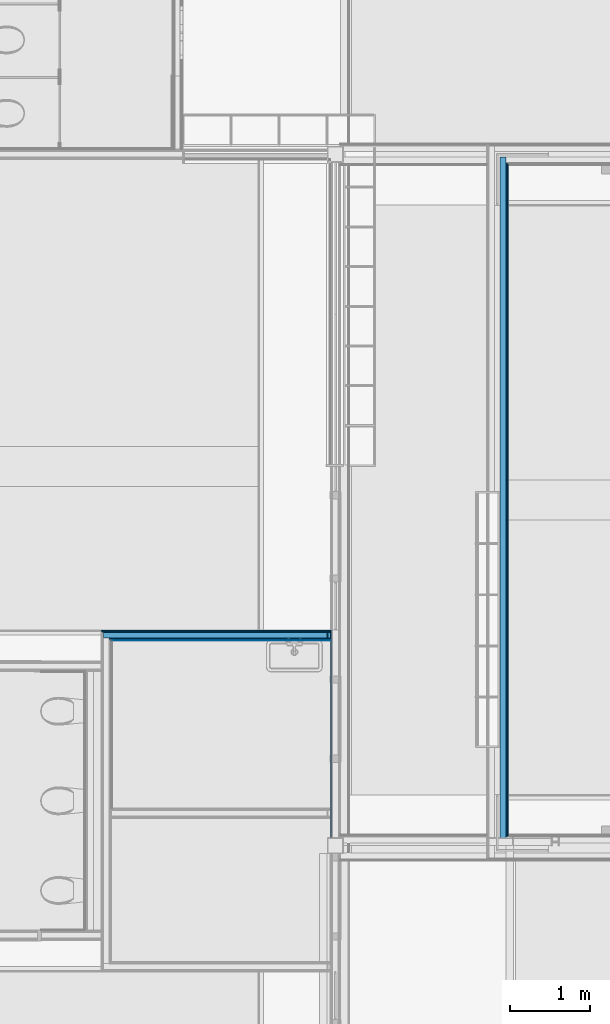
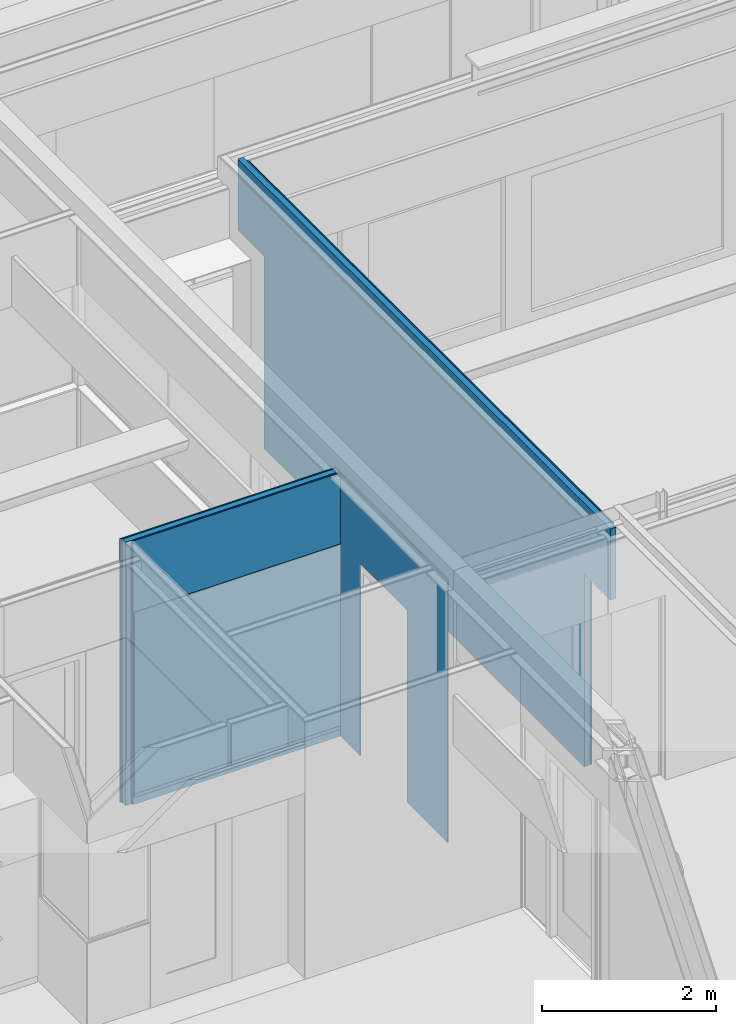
# One storey, part 57 of 165: 11 building element parts, 3 openings, 4 elements without a shape of their own.
"""IFC2X3 building model written with IfcOpenShell, lengths in millimetres."""

from ifc_helpers import new_model, entity, si_unit, converted_unit, derived_unit, money_unit, direction, frame, origin_with_axes, place, context, subcontext, project, spatial, faceted_brep, material, type_object, element, aggregate, save


model = new_model("IFC2X3")

# Units and contexts
model_context = context("Model", 3, precision=0.01, world=origin_with_axes(), true_north=direction((0.0, 1.0)))
body_context = subcontext(model_context, "Body", "Model", "MODEL_VIEW")
ifc_project = project(units=[si_unit("LENGTHUNIT", "METRE", prefix="MILLI"), si_unit("AREAUNIT", "SQUARE_METRE"), si_unit("VOLUMEUNIT", "CUBIC_METRE"), converted_unit("PLANEANGLEUNIT", "DEGREE", entity("IfcPlaneAngleMeasure", 0.0174532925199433), si_unit("PLANEANGLEUNIT", "RADIAN"), dimensions=[0, 0, 0, 0, 0, 0, 0]), money_unit("EUR"), converted_unit("TIMEUNIT", "Year", entity("IfcTimeMeasure", 31556926.0), si_unit("TIMEUNIT", "SECOND"), dimensions=[0, 0, 1, 0, 0, 0, 0]), si_unit("MASSUNIT", "GRAM", prefix="KILO"), si_unit("THERMODYNAMICTEMPERATUREUNIT", "DEGREE_CELSIUS"), si_unit("LUMINOUSINTENSITYUNIT", "LUMEN"), si_unit("ENERGYUNIT", "JOULE", prefix="MEGA"), derived_unit("THERMALCONDUCTANCEUNIT", [(si_unit("POWERUNIT", "WATT"), 1), (si_unit("LENGTHUNIT", "METRE"), -1), (si_unit("THERMODYNAMICTEMPERATUREUNIT", "KELVIN"), -1)]), derived_unit("SPECIFICHEATCAPACITYUNIT", [(si_unit("ENERGYUNIT", "JOULE"), 1), (si_unit("MASSUNIT", "GRAM", prefix="KILO"), -1), (si_unit("THERMODYNAMICTEMPERATUREUNIT", "KELVIN"), -1)]), derived_unit("MASSDENSITYUNIT", [(si_unit("MASSUNIT", "GRAM", prefix="KILO"), 1), (si_unit("VOLUMEUNIT", "CUBIC_METRE"), -1)])], contexts=[model_context])

# Site, building, storey
site_placement = place(None, origin_with_axes())
site = spatial("IfcSite", under=ifc_project, at=site_placement, Name="Site", CompositionType="ELEMENT")
building_placement = place(site_placement, origin_with_axes())
building = spatial("IfcBuilding", under=site, at=building_placement, Name="Naam gebouw", CompositionType="ELEMENT")
storey_placement = place(building_placement, origin_with_axes())
storey = spatial("IfcBuildingStorey", under=building, at=storey_placement, Name="Begane grond", CompositionType="ELEMENT", Elevation=0.0)

# Proxy, building element parts
building_element_proxy_type_1 = type_object("IfcBuildingElementProxyType", Name="22 Metal stud 125 gips 125", PredefinedType="NOTDEFINED")
proxy_1_placement = place(storey_placement, frame((8850.000000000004, 13505.00003229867, -100.0), z_axis=(0.0, 0.0, 1.0), x_axis=(-0.9999999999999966, 8.284042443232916e-08, 0.0)))
proxy_1 = element("IfcBuildingElementProxy", 1, at=proxy_1_placement, inside=storey, type_object=building_element_proxy_type_1, Name="_Wand-x")
ifc_material_1 = material(Name="Gipsplaat")
building_element_part_1_placement = place(proxy_1_placement, origin_with_axes())
building_element_part_1 = element("IfcBuildingElementPart", 2, at=building_element_part_1_placement, material=ifc_material_1, Name="Gipsplaat", context=body_context, shape_type="Brep", body=[
    faceted_brep([(199.9999906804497, 112.5000165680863, 3695.000002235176), (199.9999906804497, 112.5000165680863, 3670.000002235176), (62.4999906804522, 112.5000051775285, 3670.000002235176), (62.4999906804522, 112.5000051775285, 0.0), (2812.50039282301, 112.5002329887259, 0.0), (2812.50039282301, 112.5002329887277, 3700.0), (102.9999906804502, 112.5000085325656, 3700.0), (102.9999906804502, 112.5000085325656, 3695.000002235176), (199.9999896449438, 125.0000165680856, 3695.000002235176), (199.9999896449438, 125.0000165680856, 3670.000002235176), (62.4999896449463, 125.0000051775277, 3670.000002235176), (62.4999896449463, 125.0000051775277, 0.0), (2812.500391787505, 125.000232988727, 0.0), (2812.500391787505, 125.000232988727, 3700.0), (102.9999896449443, 125.0000085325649, 3700.0), (102.9999896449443, 125.0000085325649, 3695.000002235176)], [[[0, 1, 2, 3, 4, 5, 6, 7]], [[1, 0, 8, 9]], [[10, 2, 1, 9]], [[2, 10, 11, 3]], [[4, 3, 11, 12]], [[12, 13, 5, 4]], [[14, 6, 5, 13]], [[7, 6, 14, 15]], [[0, 7, 15, 8]], [[15, 14, 13, 12, 11, 10, 9, 8]]]),
    faceted_brep([(62.4999896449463, 125.0000051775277, 3695.000002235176), (62.4999906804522, 112.5000051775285, 3695.000002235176), (62.4999906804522, 112.5000051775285, 3700.0), (62.4999896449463, 125.0000051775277, 3700.0), (94.99999068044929, 112.5000078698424, 3695.000002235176), (94.99998964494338, 125.0000078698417, 3695.000002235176), (94.99999068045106, 112.5000078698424, 3700.0), (94.99998964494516, 125.0000078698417, 3700.0)], [[[0, 1, 2, 3]], [[4, 1, 0, 5]], [[4, 6, 2, 1]], [[6, 7, 3, 2]], [[5, 0, 3, 7]], [[7, 6, 4, 5]]]),
])
ifc_material_2 = material(Name="ALG - LICHTE SCHEIDINGSWAND")
building_element_part_2_placement = place(proxy_1_placement, origin_with_axes())
building_element_part_2 = element("IfcBuildingElementPart", 3, at=building_element_part_2_placement, material=ifc_material_2, Name="ALG - LICHTE SCHEIDINGSWAND", context=body_context, shape_type="Brep", body=[
    faceted_brep([(199.9999979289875, 25.00001656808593, 3695.000002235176), (199.9999979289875, 25.00001656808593, 3670.000002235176), (62.49999792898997, 25.0000051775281, 3670.000002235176), (62.49999792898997, 25.0000051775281, 0.0), (2900.000400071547, 25.0002402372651, 0.0), (2900.000400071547, 25.0002402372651, 3700.0), (102.999997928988, 25.00000853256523, 3700.0), (102.999997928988, 25.00000853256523, 3695.000002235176), (199.9999917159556, 100.0000165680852, 3695.000002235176), (199.9999917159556, 100.0000165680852, 3670.000002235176), (62.4999917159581, 100.0000051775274, 3670.000002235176), (62.4999917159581, 100.0000051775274, 0.0), (2900.000393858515, 100.0002402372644, 0.0), (2900.000393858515, 100.0002402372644, 3700.0), (102.9999917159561, 100.0000085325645, 3700.0), (102.9999917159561, 100.0000085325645, 3695.000002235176)], [[[0, 1, 2, 3, 4, 5, 6, 7]], [[1, 0, 8, 9]], [[10, 2, 1, 9]], [[2, 10, 11, 3]], [[4, 3, 11, 12]], [[12, 13, 5, 4]], [[14, 6, 5, 13]], [[7, 6, 14, 15]], [[0, 7, 15, 8]], [[15, 14, 13, 12, 11, 10, 9, 8]]]),
    faceted_brep([(62.4999917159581, 100.0000051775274, 3695.000002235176), (62.49999792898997, 25.0000051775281, 3695.000002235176), (62.49999792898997, 25.0000051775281, 3700.0), (62.4999917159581, 100.0000051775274, 3700.0), (94.99999792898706, 25.00000786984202, 3695.000002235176), (94.99999171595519, 100.0000078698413, 3695.000002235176), (94.99999792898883, 25.00000786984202, 3700.0), (94.99999171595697, 100.0000078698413, 3700.0)], [[[0, 1, 2, 3]], [[4, 1, 0, 5]], [[4, 6, 2, 1]], [[6, 7, 3, 2]], [[5, 0, 3, 7]], [[7, 6, 4, 5]]]),
])
building_element_part_3_placement = place(proxy_1_placement, origin_with_axes())
building_element_part_3 = element("IfcBuildingElementPart", 4, at=building_element_part_3_placement, material=ifc_material_1, Name="Gipsplaat", context=body_context, shape_type="Brep", body=[
    faceted_brep([(199.9999989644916, 12.50001656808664, 3695.000002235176), (199.9999989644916, 12.50001656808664, 3670.000002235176), (62.4999989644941, 12.50000517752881, 3670.000002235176), (62.4999989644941, 12.50000517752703, 0.0), (2912.500401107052, 12.50024127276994, 0.0), (2912.500401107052, 12.50024127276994, 3700.0), (102.9999989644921, 12.50000853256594, 3700.0), (102.9999989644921, 12.50000853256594, 3695.000002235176), (199.9999979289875, 25.00001656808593, 3695.000002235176), (199.9999979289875, 25.00001656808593, 3670.000002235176), (62.49999792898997, 25.0000051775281, 3670.000002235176), (62.49999792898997, 25.0000051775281, 0.0), (2912.500400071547, 25.00024127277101, 0.0), (2912.500400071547, 25.00024127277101, 3700.0), (102.999997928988, 25.00000853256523, 3700.0), (102.999997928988, 25.00000853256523, 3695.000002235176)], [[[0, 1, 2, 3, 4, 5, 6, 7]], [[1, 0, 8, 9]], [[10, 2, 1, 9]], [[2, 10, 11, 3]], [[4, 3, 11, 12]], [[12, 13, 5, 4]], [[14, 6, 5, 13]], [[7, 6, 14, 15]], [[0, 7, 15, 8]], [[15, 14, 13, 12, 11, 10, 9, 8]]]),
    faceted_brep([(62.49999792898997, 25.0000051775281, 3695.000002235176), (62.4999989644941, 12.50000517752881, 3695.000002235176), (62.4999989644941, 12.50000517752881, 3700.0), (62.49999792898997, 25.0000051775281, 3700.0), (94.99999896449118, 12.50000786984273, 3695.000002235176), (94.99999792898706, 25.00000786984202, 3695.000002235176), (94.99999896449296, 12.50000786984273, 3700.0), (94.99999792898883, 25.00000786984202, 3700.0)], [[[0, 1, 2, 3]], [[4, 1, 0, 5]], [[4, 6, 2, 1]], [[6, 7, 3, 2]], [[5, 0, 3, 7]], [[7, 6, 4, 5]]]),
])
building_element_part_4_placement = place(proxy_1_placement, origin_with_axes())
building_element_part_4 = element("IfcBuildingElementPart", 5, at=building_element_part_4_placement, material=ifc_material_1, Name="Gipsplaat", context=body_context, shape_type="Brep", body=[
    faceted_brep([(199.9999999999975, 1.656808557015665e-05, 3695.000002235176), (199.9999999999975, 1.656808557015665e-05, 3670.000002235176), (62.5, 5.177527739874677e-06, 3670.000002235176), (62.5, 5.177527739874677e-06, 0.0), (2925.000402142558, 0.0002423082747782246, 0.0), (2925.000402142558, 0.0002423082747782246, 3700.0), (102.999999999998, 8.532564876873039e-06, 3700.0), (102.999999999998, 8.532564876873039e-06, 3695.000002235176), (199.9999989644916, 12.50001656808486, 3695.000002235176), (199.9999989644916, 12.50001656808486, 3670.000002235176), (62.4999989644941, 12.50000517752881, 3670.000002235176), (62.4999989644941, 12.50000517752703, 0.0), (2925.000401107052, 12.50024230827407, 0.0), (2925.000401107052, 12.50024230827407, 3700.0), (102.9999989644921, 12.50000853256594, 3700.0), (102.9999989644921, 12.50000853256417, 3695.000002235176)], [[[0, 1, 2, 3, 4, 5, 6, 7]], [[1, 0, 8, 9]], [[10, 2, 1, 9]], [[2, 10, 11, 3]], [[4, 3, 11, 12]], [[12, 13, 5, 4]], [[14, 6, 5, 13]], [[7, 6, 14, 15]], [[0, 7, 15, 8]], [[15, 14, 13, 12, 11, 10, 9, 8]]]),
    faceted_brep([(62.4999989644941, 12.50000517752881, 3695.000002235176), (62.5, 5.177527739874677e-06, 3695.000002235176), (62.5, 5.177527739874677e-06, 3700.0), (62.4999989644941, 12.50000517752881, 3700.0), (94.99999999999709, 7.869841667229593e-06, 3695.000002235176), (94.99999896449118, 12.50000786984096, 3695.000002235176), (94.99999999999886, 7.869841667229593e-06, 3700.0), (94.99999896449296, 12.50000786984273, 3700.0)], [[[0, 1, 2, 3]], [[4, 1, 0, 5]], [[4, 6, 2, 1]], [[6, 7, 3, 2]], [[5, 0, 3, 7]], [[7, 6, 4, 5]]]),
])
building_element_part_5_placement = place(proxy_1_placement, origin_with_axes())
building_element_part_5 = element("IfcBuildingElementPart", 6, at=building_element_part_5_placement, material=ifc_material_1, Name="Gipsplaat", context=body_context, shape_type="Brep", body=[
    faceted_brep([(199.9999917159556, 100.0000165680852, 3695.000002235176), (199.9999917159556, 100.0000165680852, 3670.000002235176), (62.4999917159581, 100.0000051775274, 3670.000002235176), (62.4999917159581, 100.0000051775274, 0.0), (2825.000393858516, 100.0002340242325, 0.0), (2825.000393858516, 100.0002340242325, 3700.0), (102.9999917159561, 100.0000085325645, 3700.0), (102.9999917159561, 100.0000085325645, 3695.000002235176), (199.9999906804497, 112.5000165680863, 3695.000002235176), (199.9999906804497, 112.5000165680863, 3670.000002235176), (62.4999906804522, 112.5000051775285, 3670.000002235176), (62.4999906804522, 112.5000051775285, 0.0), (2825.00039282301, 112.5002340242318, 0.0), (2825.00039282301, 112.5002340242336, 3700.0), (102.9999906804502, 112.5000085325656, 3700.0), (102.9999906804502, 112.5000085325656, 3695.000002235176)], [[[0, 1, 2, 3, 4, 5, 6, 7]], [[1, 0, 8, 9]], [[10, 2, 1, 9]], [[2, 10, 11, 3]], [[4, 3, 11, 12]], [[12, 13, 5, 4]], [[14, 6, 5, 13]], [[7, 6, 14, 15]], [[0, 7, 15, 8]], [[15, 14, 13, 12, 11, 10, 9, 8]]]),
    faceted_brep([(62.4999906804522, 112.5000051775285, 3695.000002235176), (62.4999917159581, 100.0000051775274, 3695.000002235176), (62.4999917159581, 100.0000051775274, 3700.0), (62.4999906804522, 112.5000051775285, 3700.0), (94.99999171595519, 100.0000078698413, 3695.000002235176), (94.99999068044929, 112.5000078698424, 3695.000002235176), (94.99999171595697, 100.0000078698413, 3700.0), (94.99999068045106, 112.5000078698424, 3700.0)], [[[0, 1, 2, 3]], [[4, 1, 0, 5]], [[4, 6, 2, 1]], [[6, 7, 3, 2]], [[5, 0, 3, 7]], [[7, 6, 4, 5]]]),
])
aggregate(proxy_1, [building_element_part_1, building_element_part_2, building_element_part_3, building_element_part_4, building_element_part_5])

# Proxy, openings, building element parts
building_element_proxy_type_2 = type_object("IfcBuildingElementProxyType", Name="22 Metal stud 270 oregon pine 270", PredefinedType="NOTDEFINED")
proxy_2_placement = place(storey_placement, frame((10875.00000000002, 19450.00039292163, -100.0), z_axis=(0.0, 0.0, 1.0), x_axis=(0.0, -1.0, 0.0)))
proxy_2 = element("IfcBuildingElementProxy", 7, at=proxy_2_placement, inside=storey, type_object=building_element_proxy_type_2, Name="_Wand-x")
opening_1_placement = place(proxy_2_placement, frame((8345.001576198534, 0.0, 100.0), z_axis=(0.0, 0.0, 1.0), x_axis=(1.0, 0.0, 0.0)))
element("IfcOpeningElement", 8, at=opening_1_placement, cuts=proxy_2, Name="_B.07", context=body_context, shape_type="Brep", body=[
    faceted_brep([(484.9999999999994, -134.999999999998, 2600.0), (484.9999999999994, -135.9999999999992, 2600.0), (484.9999999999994, -135.9999999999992, -100.0000000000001), (484.9999999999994, -134.999999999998, -100.0000000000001), (-339.9999999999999, -10.00000000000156, 2600.0), (-339.9999999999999, -135.9999999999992, 2600.0), (158.7962962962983, 135.9999999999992, 2600.0), (-339.9999999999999, 135.9999999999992, 2600.0), (-339.9999999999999, -135.9999999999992, -100.0000000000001), (-339.9999999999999, -10.00000000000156, -100.0000000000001), (-339.9999999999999, 135.9999999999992, -100.0000000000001), (158.7962962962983, 135.9999999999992, -100.0000000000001)], [[[0, 1, 2, 3]], [[4, 5, 1, 0, 6, 7]], [[5, 8, 2, 1]], [[3, 2, 8, 9, 10, 11]], [[0, 3, 11, 6]], [[4, 9, 8, 5]], [[11, 10, 7, 6]], [[9, 4, 7, 10]]]),
])
opening_2_placement = place(proxy_2_placement, frame((322.499999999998, 0.0, 100.0), z_axis=(0.0, 0.0, 1.0), x_axis=(1.0, 0.0, 0.0)))
element("IfcOpeningElement", 9, at=opening_2_placement, cuts=proxy_2, Name="_B.11", context=body_context, shape_type="Brep", body=[
    faceted_brep([(312.5, -9.999999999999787, -100.0000000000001), (312.5, -9.999999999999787, 2600.0), (312.5, -135.9999999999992, 2600.0), (312.5, -135.9999999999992, -100.0000000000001), (312.5, 135.9999999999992, -100.0000000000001), (312.5, 135.9999999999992, 2600.0), (-457.4999999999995, -135.0000000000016, 2600.0), (-457.4999999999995, -135.9999999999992, 2600.0), (-186.4999999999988, 135.9999999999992, 2600.0), (-457.4999999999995, -135.9999999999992, -100.0000000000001), (-457.4999999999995, -135.0000000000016, -100.0000000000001), (-186.4999999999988, 135.9999999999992, -100.0000000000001)], [[[0, 1, 2, 3]], [[1, 0, 4, 5]], [[6, 7, 2, 1, 5, 8]], [[7, 9, 3, 2]], [[0, 3, 9, 10, 11, 4]], [[5, 4, 11, 8]], [[10, 9, 7, 6]], [[8, 11, 10, 6]]]),
])
building_element_part_6_placement = place(proxy_2_placement, origin_with_axes())
building_element_part_6 = element("IfcBuildingElementPart", 10, at=building_element_part_6_placement, material=ifc_material_1, Name="Gipsplaat", context=body_context, shape_type="Brep", body=[
    faceted_brep([(634.999999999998, 135.0000193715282, 0.0), (634.999999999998, 135.0000193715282, 2700.0), (135.0000193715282, 135.0000193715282, 2700.0), (122.4999999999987, 134.9999999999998, 2700.0), (122.4999999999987, 134.9999999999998, 3700.0), (8517.501576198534, 134.9999999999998, 3700.0), (8517.501576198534, 134.9999999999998, 2700.0), (8505.001552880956, 135.0000193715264, 2700.0), (8005.001576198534, 135.0000193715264, 2700.0), (8005.001576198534, 135.0000193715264, 0.0), (634.999999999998, 122.4999999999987, 0.0), (634.999999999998, 122.5000000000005, 2700.0), (122.4999999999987, 122.5000000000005, 2700.0), (122.4999999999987, 122.5000000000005, 3700.0), (8517.501576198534, 122.4999999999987, 3700.0), (8517.501576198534, 122.4999999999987, 2700.0), (8005.001576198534, 122.4999999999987, 2700.0), (8005.001576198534, 122.4999999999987, 0.0)], [[[0, 1, 2, 3, 4, 5, 6, 7, 8, 9]], [[1, 0, 10, 11]], [[2, 1, 11, 12, 3]], [[3, 12, 13, 4]], [[14, 5, 4, 13]], [[15, 6, 5, 14]], [[15, 16, 8, 7, 6]], [[9, 8, 16, 17]], [[10, 0, 9, 17]], [[11, 10, 17, 16, 15, 14, 13, 12]]]),
])
building_element_part_7_placement = place(proxy_2_placement, origin_with_axes())
building_element_part_7 = element("IfcBuildingElementPart", 11, at=building_element_part_7_placement, material=ifc_material_2, Name="ALG - LICHTE SCHEIDINGSWAND", context=body_context, shape_type="Brep", body=[
    faceted_brep([(634.999999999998, 109.9999999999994, 0.0), (634.999999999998, 110.0000000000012, 2700.0), (35.00000000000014, 109.9999999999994, 2700.0), (35.00000000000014, 109.9999999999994, 3700.0), (8605.001576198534, 109.9999999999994, 3700.0), (8605.001576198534, 109.9999999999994, 2700.0), (8005.001576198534, 109.9999999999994, 2700.0), (8005.001576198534, 109.9999999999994, 0.0), (634.999999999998, 34.99998360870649, 0.0), (634.999999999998, 35.00000000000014, 2700.0), (35.00000000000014, 35.00000000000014, 2700.0), (35.00000000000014, 35.00000000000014, 3700.0), (8605.001576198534, 34.99999999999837, 3700.0), (8605.001576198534, 34.99999999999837, 2700.0), (8005.001576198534, 34.99999999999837, 2700.0), (8005.001576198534, 34.99998360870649, 0.0)], [[[0, 1, 2, 3, 4, 5, 6, 7]], [[1, 0, 8, 9]], [[2, 1, 9, 10]], [[2, 10, 11, 3]], [[12, 4, 3, 11]], [[13, 5, 4, 12]], [[13, 14, 6, 5]], [[7, 6, 14, 15]], [[8, 0, 7, 15]], [[9, 8, 15, 14, 13, 12, 11, 10]]]),
])
building_element_part_8_placement = place(proxy_2_placement, origin_with_axes())
building_element_part_8 = element("IfcBuildingElementPart", 12, at=building_element_part_8_placement, material=ifc_material_1, Name="Gipsplaat", context=body_context, shape_type="Brep", body=[
    faceted_brep([(634.999999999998, 122.5000000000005, 0.0), (634.999999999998, 122.5000000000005, 2700.0), (109.9999999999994, 122.5000000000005, 2700.0), (109.9999999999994, 122.5000000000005, 3700.0), (8530.001576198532, 122.4999999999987, 3700.0), (8530.001576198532, 122.4999999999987, 2700.0), (8005.001576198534, 122.4999999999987, 2700.0), (8005.001576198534, 122.4999999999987, 0.0), (634.999999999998, 109.9999999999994, 0.0), (634.999999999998, 110.0000000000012, 2700.0), (109.9999999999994, 109.9999999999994, 2700.0), (109.9999999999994, 109.9999999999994, 3700.0), (8530.001576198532, 109.9999999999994, 3700.0), (8530.001576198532, 109.9999999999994, 2700.0), (8005.001576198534, 109.9999999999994, 2700.0), (8005.001576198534, 109.9999999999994, 0.0)], [[[0, 1, 2, 3, 4, 5, 6, 7]], [[1, 0, 8, 9]], [[2, 1, 9, 10]], [[2, 10, 11, 3]], [[12, 4, 3, 11]], [[13, 5, 4, 12]], [[13, 14, 6, 5]], [[7, 6, 14, 15]], [[8, 0, 7, 15]], [[9, 8, 15, 14, 13, 12, 11, 10]]]),
])
aggregate(proxy_2, [building_element_part_6, building_element_part_7, building_element_part_8])

# Proxy, opening, building element part
building_element_proxy_type_3 = type_object("IfcBuildingElementProxyType", Name="22 Metal stud 125 oregon pine 125", PredefinedType="NOTDEFINED")
proxy_3_placement = place(storey_placement, frame((8850.000000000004, 13505.00003229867, -100.0), z_axis=(0.0, 0.0, 1.0), x_axis=(0.0, -1.0, 0.0)))
proxy_3 = element("IfcBuildingElementProxy", 13, at=proxy_3_placement, inside=storey, type_object=building_element_proxy_type_3, Name="_Wand-x")
opening_3_placement = place(proxy_3_placement, frame((1114.999994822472, 0.0, 100.0), z_axis=(0.0, 0.0, 1.0), x_axis=(1.0, 0.0, 0.0)))
element("IfcOpeningElement", 14, at=opening_3_placement, cuts=proxy_3, Name="_01.02", context=body_context, shape_type="Brep", body=[
    faceted_brep([(-539.9999999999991, -63.49999999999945, 2600.0), (-539.9999999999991, -63.49999999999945, -100.0000000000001), (539.9999999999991, -63.49999999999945, -100.0000000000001), (539.9999999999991, -63.49999999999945, 2600.0), (-539.9999999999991, 63.50000000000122, 2600.0), (-539.9999999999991, 63.50000000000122, -100.0000000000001), (539.9999999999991, 63.50000000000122, -100.0000000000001), (539.9999999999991, 63.50000000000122, 2600.0)], [[[0, 1, 2, 3]], [[4, 5, 1, 0]], [[5, 6, 2, 1]], [[6, 7, 3, 2]], [[7, 4, 0, 3]], [[6, 5, 4, 7]]]),
])
building_element_part_9_placement = place(proxy_3_placement, origin_with_axes())
building_element_part_9 = element("IfcBuildingElementPart", 15, at=building_element_part_9_placement, material=ifc_material_1, Name="Gipsplaat", context=body_context, shape_type="Brep", body=[
    faceted_brep([(1654.999994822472, -50.00000000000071, 0.0), (1654.999994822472, -50.00000000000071, 2700.0), (574.9999948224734, -50.00000000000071, 2700.0), (574.9999948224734, -50.00000000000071, 0.0), (0.0, -50.00000000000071, 0.0), (0.0, -49.99999999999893, 3670.000002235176), (2594.999921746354, -50.00000000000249, 3670.000002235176), (2594.999921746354, -50.00000000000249, 0.0), (1654.999994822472, -62.5, 0.0), (1654.999994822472, -62.5, 2700.0), (574.9999948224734, -62.5, 2700.0), (574.9999948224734, -62.5, 0.0), (0.0, -62.5, 0.0), (0.0, -62.5, 3670.000002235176), (2594.999921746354, -62.50000000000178, 3670.000002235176), (2594.999921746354, -62.50000000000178, 0.0)], [[[0, 1, 2, 3, 4, 5, 6, 7]], [[1, 0, 8, 9]], [[2, 1, 9, 10]], [[3, 2, 10, 11]], [[3, 11, 12, 4]], [[13, 5, 4, 12]], [[6, 5, 13, 14]], [[6, 14, 15, 7]], [[8, 0, 7, 15]], [[9, 8, 15, 14, 13, 12, 11, 10]]]),
    faceted_brep([(2594.999921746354, -50.00000000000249, 3700.0), (2594.999921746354, -50.00000000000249, 3695.000002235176), (0.0, -49.99999999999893, 3695.000002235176), (0.0, -49.99999999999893, 3700.0), (2594.999921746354, -62.50000000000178, 3700.0), (2594.999921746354, -62.50000000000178, 3695.000002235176), (0.0, -62.5, 3695.000002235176), (0.0, -62.5, 3700.0)], [[[0, 1, 2, 3]], [[4, 5, 1, 0]], [[5, 6, 2, 1]], [[3, 2, 6, 7]], [[4, 0, 3, 7]], [[7, 6, 5, 4]]]),
])
aggregate(proxy_3, [building_element_part_9])

# Proxy, building element parts
building_element_proxy_type_4 = type_object("IfcBuildingElementProxyType", Name="42 Tegelwerk 2600+ 12 x 2600", PredefinedType="NOTDEFINED")
proxy_4_placement = place(storey_placement, frame((8787.500000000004, 13360.00004210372, 0.0), z_axis=(0.0, 0.0, 1.0), x_axis=(-0.9999999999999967, 8.261900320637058e-08, 0.0)))
proxy_4 = element("IfcBuildingElementProxy", 16, at=proxy_4_placement, inside=storey, type_object=building_element_proxy_type_4, Name="_Wand-x")
ifc_material_3 = material(Name="48 vloeivloer Bolidt")
building_element_part_10_placement = place(proxy_4_placement, origin_with_axes())
building_element_part_10 = element("IfcBuildingElementPart", 17, at=building_element_part_10_placement, material=ifc_material_3, Name="48 vloeivloer Bolidt", context=body_context, shape_type="Brep", body=[
    faceted_brep([(2737.500413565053, -19.99975743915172, 0.0), (2737.500413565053, -19.99975743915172, 50.00000596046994), (1.652379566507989e-06, -19.99998360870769, 50.00000596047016), (1.652379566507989e-06, -19.99998360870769, 0.0), (2737.500413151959, -14.99977234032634, 0.0), (2737.500413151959, -14.99977234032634, 50.00000596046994), (1.239284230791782e-06, -14.99999850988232, 50.00000596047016), (1.239284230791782e-06, -14.99999850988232, 0.0)], [[[0, 1, 2, 3]], [[1, 0, 4, 5]], [[1, 5, 6, 2]], [[6, 7, 3, 2]], [[4, 0, 3, 7]], [[5, 4, 7, 6]]]),
])
ifc_material_4 = material(Name="21 STO lijmlaag")
building_element_part_11_placement = place(proxy_4_placement, origin_with_axes())
building_element_part_11 = element("IfcBuildingElementPart", 18, at=building_element_part_11_placement, material=ifc_material_4, Name="21 STO lijmlaag", context=body_context, shape_type="Brep", body=[
    faceted_brep([(2737.500413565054, -19.9997693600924, 50.00000596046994), (2737.500413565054, -19.99976936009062, 2600.0), (1.652379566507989e-06, -19.9999955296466, 2600.0), (1.652379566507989e-06, -19.9999955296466, 50.00000000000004), (2737.500412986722, -12.9997783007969, 2600.0), (2737.500413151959, -14.99977234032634, 50.00000596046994), (2737.500412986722, -12.9997783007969, 50.00000596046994), (1.07404751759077e-06, -13.00000447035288, 2600.0), (1.07404751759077e-06, -13.00000447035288, 50.00000000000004), (1.239284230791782e-06, -14.99999850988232, 50.00000596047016)], [[[0, 1, 2, 3]], [[4, 1, 0, 5, 6]], [[1, 4, 7, 2]], [[7, 8, 9, 3, 2]], [[5, 0, 3, 9]], [[6, 5, 9, 8]], [[4, 6, 8, 7]]]),
])
aggregate(proxy_4, [building_element_part_10, building_element_part_11])

save(model, "model.ifc")
